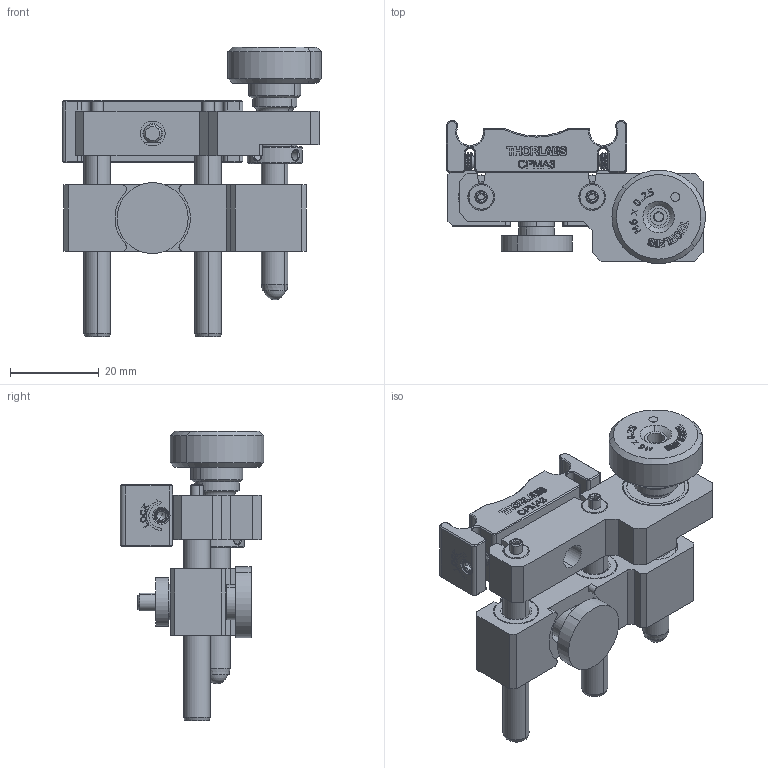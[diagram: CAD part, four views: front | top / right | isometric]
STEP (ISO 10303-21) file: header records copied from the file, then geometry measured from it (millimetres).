
FILE_DESCRIPTION (( 'STEP AP214' ), '1' );
FILE_NAME ('2024-33 - CAGE ALIGNER ASSY.STEP', '2024-09-10T06:26:33', ( '' ), ( '' ), 'SwSTEP 2.0', 'SolidWorks 2024', '' );
FILE_SCHEMA (( 'AUTOMOTIVE_DESIGN' ));
Length unit declared in the file: millimetre
Products named in the file (15): 2024-33 - CAGE ALIGNER ASSY; RNCB4-5-20.stp; SHBZ6-15.stp; F6MSS50s; ER2; F6MSSN1P; DIN 912 M4 x 10 --- 10N_DIN 912 M4 x 10 --- 10N; 2024-35 - CAGE ALIGNER SPACER; B696ZZ.stp; 2024-38 - CAGE CARRIER BUTTON; 2024-34 - CAGE ALIGNER START; CPMA3; F6MSSK1L; 2024-37 - CAGE ALIGNER CARRIER; LN6M25
Assembly tree (17 placements, depth 2):
  2024-33 - CAGE ALIGNER ASSY
    CPMA3
    2024-34 - CAGE ALIGNER START
    F6MSS50s
    F6MSSK1L
    2024-35 - CAGE ALIGNER SPACER  x2
    LN6M25
    B696ZZ.stp
    ER2  x2
    2024-37 - CAGE ALIGNER CARRIER
    SHBZ6-15.stp  x2
    DIN 912 M4 x 10 --- 10N_DIN 912 M4 x 10 --- 10N
    F6MSSN1P
    2024-38 - CAGE CARRIER BUTTON
    RNCB4-5-20.stp
Bounding box: 58.36 x 32.31 x 65.23 mm (x, y, z)
Volume: 26272.3 mm3; surface area: 21940.4 mm2
Topology: 22 solids, 22 shells, 1201 faces, 3023 edges, 1932 vertices
Faces by surface type: plane 527, bspline 306, cylinder 200, cone 138, torus 28, sphere 2
Entity records: 50789 total; most frequent: CARTESIAN_POINT 24885, ORIENTED_EDGE 5746, DIRECTION 4323, EDGE_CURVE 2873, VERTEX_POINT 1856, LINE 1663, VECTOR 1663, AXIS2_PLACEMENT_3D 1330
